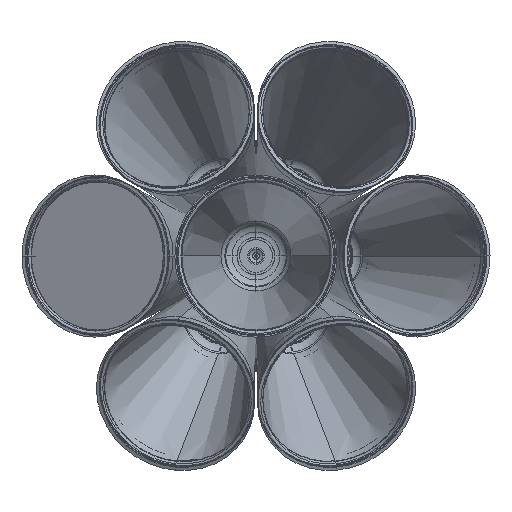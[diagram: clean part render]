
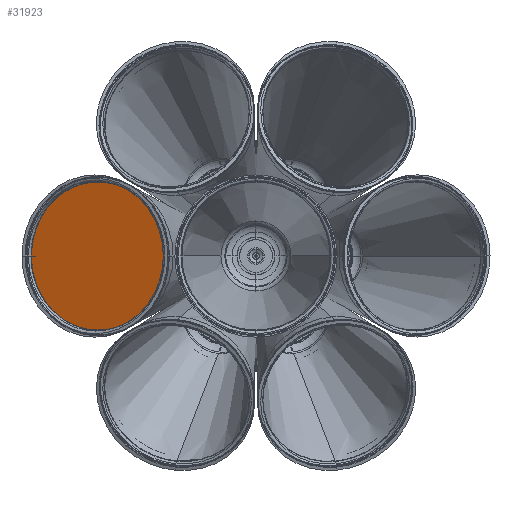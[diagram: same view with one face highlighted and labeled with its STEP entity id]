
A CAD part, front view. The second image highlights one B-rep face of the part: STEP entity #31923.
In plain terms, the highlighted planar face has unit normal (0.437, 0.899, 0).
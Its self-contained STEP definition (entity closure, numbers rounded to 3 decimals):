
#137 = EDGE_CURVE ( 'NONE', #25627, #30318, #22944, .T. ) ;
#549 = DIRECTION ( 'NONE',  ( -0.437, -0.899, 0. ) ) ;
#767 = VERTEX_POINT ( 'NONE', #26363 ) ;
#1284 = CARTESIAN_POINT ( 'NONE',  ( -114.613, -1482.447, 0. ) ) ;
#3097 = ORIENTED_EDGE ( 'NONE', *, *, #4126, .T. ) ;
#3841 = DIRECTION ( 'NONE',  ( -0.437, -0.899, 0. ) ) ;
#4126 = EDGE_CURVE ( 'NONE', #30318, #25627, #30451, .T. ) ;
#4490 = PLANE ( 'NONE',  #32762 ) ;
#5039 = ORIENTED_EDGE ( 'NONE', *, *, #20472, .F. ) ;
#5377 = CARTESIAN_POINT ( 'NONE',  ( -114.584, -1482.461, 0. ) ) ;
#6894 = DIRECTION ( 'NONE',  ( 0.899, -0.437, 0. ) ) ;
#8189 = DIRECTION ( 'NONE',  ( -0.437, -0.899, 0. ) ) ;
#9330 = DIRECTION ( 'NONE',  ( 0.899, -0.437, 0. ) ) ;
#9701 = CARTESIAN_POINT ( 'NONE',  ( -114.584, -1482.461, 0. ) ) ;
#11276 = CARTESIAN_POINT ( 'NONE',  ( 434.015, -1749.104, -0.047 ) ) ;
#13990 = AXIS2_PLACEMENT_3D ( 'NONE', #1284, #34622, #28490 ) ;
#14335 = CIRCLE ( 'NONE', #17823, 53.722 ) ;
#16809 = FACE_OUTER_BOUND ( 'NONE', #17258, .T. ) ;
#17258 = EDGE_LOOP ( 'NONE', ( #5039, #3097, #32700, #35328 ) ) ;
#17349 = CARTESIAN_POINT ( 'NONE',  ( -66.326, -1505.916, 0. ) ) ;
#17823 = AXIS2_PLACEMENT_3D ( 'NONE', #9701, #3841, #6894 ) ;
#20472 = EDGE_CURVE ( 'NONE', #30318, #767, #14335, .T. ) ;
#20645 = DIRECTION ( 'NONE',  ( 0.899, -0.437, 0. ) ) ;
#22944 = CIRCLE ( 'NONE', #26737, 53.689 ) ;
#25627 = VERTEX_POINT ( 'NONE', #17349 ) ;
#26363 = CARTESIAN_POINT ( 'NONE',  ( -66.267, -1505.945, 0. ) ) ;
#26485 = DIRECTION ( 'NONE',  ( -0.437, -0.899, 0. ) ) ;
#26737 = AXIS2_PLACEMENT_3D ( 'NONE', #33741, #549, #9330 ) ;
#27869 = EDGE_CURVE ( 'NONE', #767, #30318, #38191, .T. ) ;
#28490 = DIRECTION ( 'NONE',  ( 0.899, -0.437, 0. ) ) ;
#29934 = AXIS2_PLACEMENT_3D ( 'NONE', #5377, #8189, #32080 ) ;
#30318 = VERTEX_POINT ( 'NONE', #37737 ) ;
#30451 = CIRCLE ( 'NONE', #13990, 53.689 ) ;
#31923 = ADVANCED_FACE ( 'NONE', ( #16809 ), #4490, .F. ) ;
#32080 = DIRECTION ( 'NONE',  ( 0.899, -0.437, 0. ) ) ;
#32700 = ORIENTED_EDGE ( 'NONE', *, *, #137, .T. ) ;
#32762 = AXIS2_PLACEMENT_3D ( 'NONE', #11276, #26485, #20645 ) ;
#33741 = CARTESIAN_POINT ( 'NONE',  ( -114.613, -1482.447, 0. ) ) ;
#34622 = DIRECTION ( 'NONE',  ( -0.437, -0.899, 0. ) ) ;
#35328 = ORIENTED_EDGE ( 'NONE', *, *, #27869, .F. ) ;
#37737 = CARTESIAN_POINT ( 'NONE',  ( -162.9, -1458.977, 0. ) ) ;
#38191 = CIRCLE ( 'NONE', #29934, 53.722 ) ;
